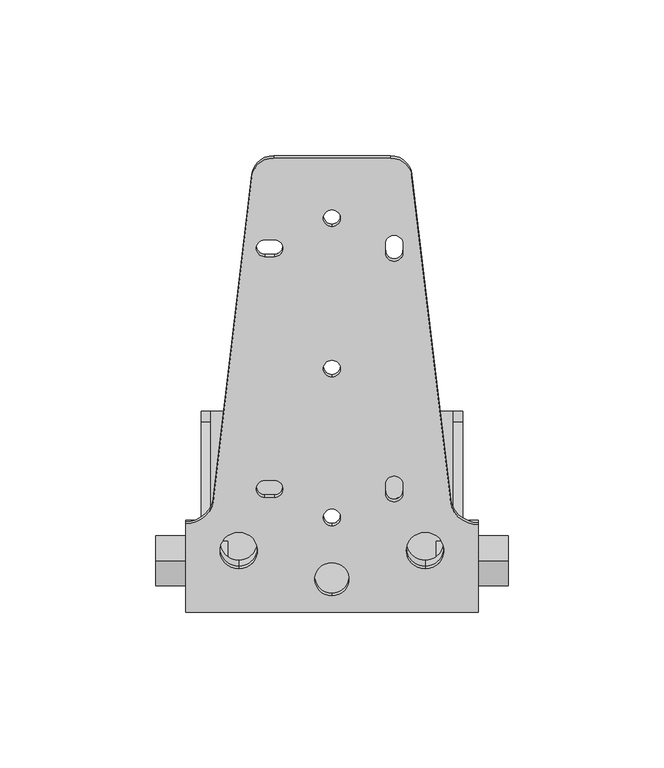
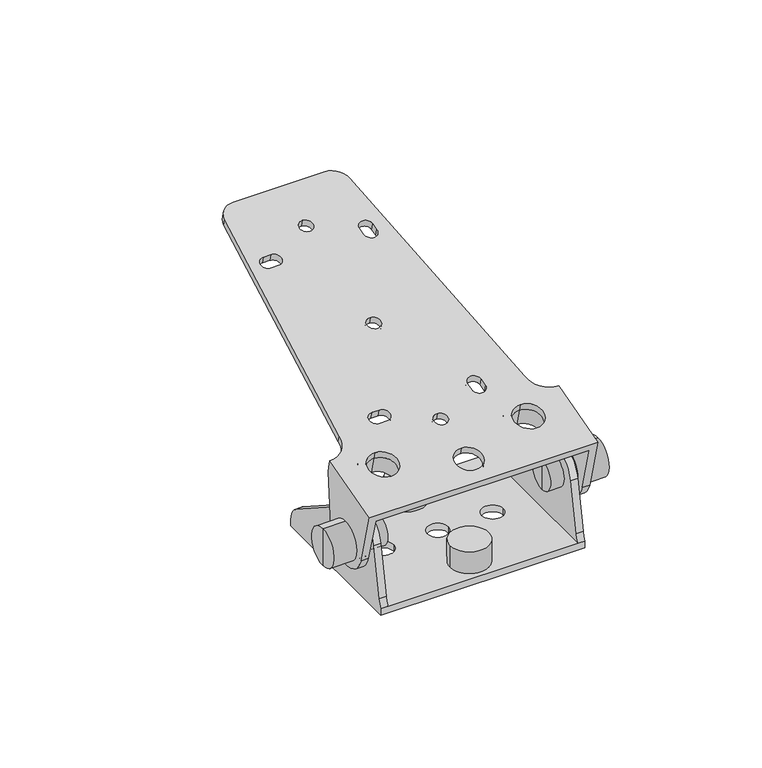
"""IFC4 building model written with IfcOpenShell, lengths in millimetres: proxy geometry, d&b xS-Series 42S l 44S Mounting Bracket : 42S l 44S Mounting Bracket."""

from ifc_helpers import new_model, si_unit, point, frame, frame_2d, origin, origin_with_axes, place, context, project, spatial, polyline, circle_curve, trimmed, segment, composite_curve, outline, extrude, source, transform, mapped, element, save
from ifc_brep_helpers import plane_surface, cylinder_surface, revolved_surface, advanced_brep


def communication_devices_34a5a653(model_context):
    return source(origin(), model_context, "Body", "SolidModel", [
        advanced_brep(
        [(25.7132706, 108.0212224, 78.9485133), (37.9949251, 4.9029218, 51.3180479), (47.0, -3.7953126, 48.987363), (44.0, -3.7953126, 48.987363), (44.0, -31.8448689, 41.471507), (-44.0, -31.8448689, 41.471507), (-44.0, -3.7953126, 48.987363), (-47.0, -3.7953126, 48.987363), (-47.0, -3.4922093, 49.0685793), (-37.9541317, 5.2454286, 51.4098223), (-25.7132706, 108.0212224, 78.9485133), (-18.7591389, 114.0099308, 80.5531828), (18.7591389, 114.0099308, 80.5531828), (29.9380242, -6.2305028, 48.3348558), (29.9380242, -17.8216127, 45.2290272), (-29.9380242, -6.2305028, 48.3348558), (-29.9380242, -17.8216127, 45.2290272), (0.0, 97.3477103, 76.0885543), (0.0, 92.0351183, 74.6650496), (0.0, 1.2380906, 50.3360593), (0.0, -4.0745014, 48.9125546), (0.0, -15.9070928, 45.7420213), (0.0, -26.5322769, 42.8950118), (22.75, 6.3092012, 51.6948593), (22.75, 9.2069787, 52.4713164), (17.25, 9.2069787, 52.4713164), (17.25, 6.3092012, 51.6948593), (-21.5, 5.1017939, 51.3713355), (-18.5, 5.1017939, 51.3713355), (-18.5, 10.414386, 52.7948403), (-21.5, 10.414386, 52.7948403), (17.25, 86.4810448, 73.1768401), (17.25, 83.5832673, 72.4003829), (22.75, 83.5832673, 72.4003829), (22.75, 86.4810448, 73.1768401), (-18.5, 87.6884521, 73.5003639), (-21.5, 87.6884521, 73.5003639), (-21.5, 82.37586, 72.0768591), (-18.5, 82.37586, 72.0768591), (0.0, 49.051419, 63.1476021), (0.0, 43.738827, 61.7240973), (25.7132706, 107.2447653, 81.8462907), (18.7591389, 113.2334737, 83.4509603), (-18.7591389, 113.2334737, 83.4509603), (-25.7132706, 107.2447653, 81.8462907), (-37.9541317, 4.4689714, 54.3075998), (-47.0, -4.2686664, 51.9663568), (-47.0, -32.6213261, 44.3692845), (47.0, -32.6213261, 44.3692845), (47.0, -4.5717697, 51.8851405), (37.9949251, 4.1264647, 54.2158254), (29.9380242, -7.0069599, 51.2326332), (29.9380242, -18.5980698, 48.1268047), (-29.9380242, -7.0069599, 51.2326332), (-29.9380242, -18.5980698, 48.1268047), (0.0, 96.5712532, 78.9863318), (0.0, 91.2586611, 77.562827), (0.0, 0.4616335, 53.2338368), (0.0, -4.8509586, 51.8103321), (0.0, -16.6835499, 48.6397988), (0.0, -27.308734, 45.7927893), (22.75, 5.5327441, 54.5926368), (17.25, 5.5327441, 54.5926368), (17.25, 8.4305215, 55.3690939), (22.75, 8.4305215, 55.3690939), (-21.5, 4.3253368, 54.269113), (-21.5, 9.6379288, 55.6926177), (-18.5, 9.6379288, 55.6926177), (-18.5, 4.3253368, 54.269113), (17.25, 85.7045876, 76.0746175), (22.75, 85.7045876, 76.0746175), (22.75, 82.8068102, 75.2981604), (17.25, 82.8068102, 75.2981604), (-18.5, 86.9119949, 76.3981413), (-18.5, 81.5994029, 74.9746366), (-21.5, 81.5994029, 74.9746366), (-21.5, 86.9119949, 76.3981413), (0.0, 48.2749619, 66.0453795), (0.0, 42.9623698, 64.6218748), (47.0, -26.668488, 22.1529905), (47.0, -5.0851623, 24.0412868), (47.0, -3.1223831, 46.4759559), (-47.0, -26.668488, 22.1529905), (-44.0, -26.668488, 22.1529905), (44.0, -26.668488, 22.1529905), (-47.0, -3.1223831, 46.4759559), (-47.0, -5.0851623, 24.0412868), (-44.0, -5.0851623, 24.0412868), (-44.0, -3.1223831, 46.4759559), (44.0, -3.1223831, 46.4759559), (44.0, -5.0851623, 24.0412868)],
        [
            (0, 1),
            (1, 2, circle_curve(frame((47.0, 4.9029218, 51.3180479), z_axis=(0.0, -0.2588190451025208, 0.9659258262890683), x_axis=(0.0, -0.9659258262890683, -0.2588190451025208)), 9.0050749)),
            (2, 3),
            (3, 4),
            (4, 5),
            (5, 6),
            (6, 7),
            (7, 8),
            (8, 9, circle_curve(frame((-47.0, 5.2454286, 51.4098223), z_axis=(0.0, -0.2588190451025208, 0.9659258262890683), x_axis=(0.0, -0.9659258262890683, -0.2588190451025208)), 9.0458683)),
            (9, 10),
            (10, 11, circle_curve(frame((-18.7591389, 107.24845, 78.7414495), z_axis=(0.0, 0.2588190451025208, -0.9659258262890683), x_axis=(0.0, -0.9659258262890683, -0.2588190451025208)), 7.0)),
            (11, 12),
            (12, 0, circle_curve(frame((18.7591389, 107.24845, 78.7414495), z_axis=(0.0, 0.2588190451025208, -0.9659258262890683), x_axis=(0.0, -0.9659258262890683, -0.2588190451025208)), 7.0)),
            (13, 14, circle_curve(frame((29.9380242, -12.0260577, 46.7819415), z_axis=(0.0, -0.2588190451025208, 0.9659258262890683), x_axis=(0.0, -0.9659258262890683, -0.2588190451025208)), 6.0)),
            (14, 13, circle_curve(frame((29.9380242, -12.0260577, 46.7819415), z_axis=(0.0, -0.2588190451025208, 0.9659258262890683), x_axis=(0.0, -0.9659258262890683, -0.2588190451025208)), 6.0)),
            (15, 16, circle_curve(frame((-29.9380242, -12.0260577, 46.7819415), z_axis=(0.0, -0.2588190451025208, 0.9659258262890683), x_axis=(0.0, -0.9659258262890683, -0.2588190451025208)), 6.0)),
            (16, 15, circle_curve(frame((-29.9380242, -12.0260577, 46.7819415), z_axis=(0.0, -0.2588190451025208, 0.9659258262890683), x_axis=(0.0, -0.9659258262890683, -0.2588190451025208)), 6.0)),
            (17, 18, circle_curve(frame((0.0, 94.6914143, 75.3768019), z_axis=(0.0, -0.2588190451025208, 0.9659258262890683), x_axis=(0.0, -0.9659258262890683, -0.2588190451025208)), 2.75)),
            (18, 17, circle_curve(frame((0.0, 94.6914143, 75.3768019), z_axis=(0.0, -0.2588190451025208, 0.9659258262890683), x_axis=(0.0, -0.9659258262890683, -0.2588190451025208)), 2.75)),
            (19, 20, circle_curve(frame((0.0, -1.4182054, 49.624307), z_axis=(0.0, -0.2588190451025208, 0.9659258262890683), x_axis=(0.0, -0.9659258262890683, -0.2588190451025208)), 2.75)),
            (20, 19, circle_curve(frame((0.0, -1.4182054, 49.624307), z_axis=(0.0, -0.2588190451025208, 0.9659258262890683), x_axis=(0.0, -0.9659258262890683, -0.2588190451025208)), 2.75)),
            (21, 22, circle_curve(frame((0.0, -21.2196849, 44.3185165), z_axis=(0.0, -0.2588190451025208, 0.9659258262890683), x_axis=(0.0, -0.9659258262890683, -0.2588190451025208)), 5.5)),
            (22, 21, circle_curve(frame((0.0, -21.2196849, 44.3185165), z_axis=(0.0, -0.2588190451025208, 0.9659258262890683), x_axis=(0.0, -0.9659258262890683, -0.2588190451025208)), 5.5)),
            (23, 24),
            (24, 25, circle_curve(frame((20.0, 9.2069787, 52.4713164), z_axis=(0.0, -0.2588190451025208, 0.9659258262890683), x_axis=(0.0, -0.9659258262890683, -0.2588190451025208)), 2.75)),
            (25, 26),
            (26, 23, circle_curve(frame((20.0, 6.3092012, 51.6948593), z_axis=(0.0, -0.2588190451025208, 0.9659258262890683), x_axis=(0.0, -0.9659258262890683, -0.2588190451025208)), 2.75)),
            (27, 28),
            (28, 29, circle_curve(frame((-18.5, 7.7580899, 52.0830879), z_axis=(0.0, -0.2588190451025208, 0.9659258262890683), x_axis=(0.0, -0.9659258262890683, -0.2588190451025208)), 2.75)),
            (29, 30),
            (30, 27, circle_curve(frame((-21.5, 7.7580899, 52.0830879), z_axis=(0.0, -0.2588190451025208, 0.9659258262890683), x_axis=(0.0, -0.9659258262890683, -0.2588190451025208)), 2.75)),
            (31, 32),
            (32, 33, circle_curve(frame((20.0, 83.5832673, 72.4003829), z_axis=(0.0, -0.2588190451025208, 0.9659258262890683), x_axis=(0.0, -0.9659258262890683, -0.2588190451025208)), 2.75)),
            (33, 34),
            (34, 31, circle_curve(frame((20.0, 86.4810448, 73.1768401), z_axis=(0.0, -0.2588190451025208, 0.9659258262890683), x_axis=(0.0, -0.9659258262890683, -0.2588190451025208)), 2.75)),
            (35, 36),
            (36, 37, circle_curve(frame((-21.5, 85.032156, 72.7886115), z_axis=(0.0, -0.2588190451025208, 0.9659258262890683), x_axis=(0.0, -0.9659258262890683, -0.2588190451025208)), 2.75)),
            (37, 38),
            (38, 35, circle_curve(frame((-18.5, 85.032156, 72.7886115), z_axis=(0.0, -0.2588190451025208, 0.9659258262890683), x_axis=(0.0, -0.9659258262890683, -0.2588190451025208)), 2.75)),
            (39, 40, circle_curve(frame((0.0, 46.395123, 62.4358497), z_axis=(0.0, -0.2588190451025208, 0.9659258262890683), x_axis=(0.0, -0.9659258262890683, -0.2588190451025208)), 2.75)),
            (40, 39, circle_curve(frame((0.0, 46.395123, 62.4358497), z_axis=(0.0, -0.2588190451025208, 0.9659258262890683), x_axis=(0.0, -0.9659258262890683, -0.2588190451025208)), 2.75)),
            (41, 42, circle_curve(frame((18.7591389, 106.4719929, 81.639227), z_axis=(0.0, -0.2588190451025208, 0.9659258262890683), x_axis=(0.0, -0.9659258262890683, -0.2588190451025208)), 7.0)),
            (42, 43),
            (43, 44, circle_curve(frame((-18.7591389, 106.4719929, 81.639227), z_axis=(0.0, -0.2588190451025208, 0.9659258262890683), x_axis=(0.0, -0.9659258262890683, -0.2588190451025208)), 7.0)),
            (44, 45),
            (45, 46, circle_curve(frame((-47.0, 4.4689714, 54.3075998), z_axis=(0.0, 0.2588190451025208, -0.9659258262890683), x_axis=(0.0, -0.9659258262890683, -0.2588190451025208)), 9.0458683)),
            (46, 47),
            (47, 48),
            (48, 49),
            (49, 50, circle_curve(frame((47.0, 4.1264647, 54.2158254), z_axis=(0.0, 0.2588190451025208, -0.9659258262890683), x_axis=(0.0, -0.9659258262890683, -0.2588190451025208)), 9.0050749)),
            (50, 41),
            (51, 52, circle_curve(frame((29.9380242, -12.8025149, 49.679719), z_axis=(0.0, 0.2588190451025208, -0.9659258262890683), x_axis=(0.0, -0.9659258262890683, -0.2588190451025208)), 6.0)),
            (52, 51, circle_curve(frame((29.9380242, -12.8025149, 49.679719), z_axis=(0.0, 0.2588190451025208, -0.9659258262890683), x_axis=(0.0, -0.9659258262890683, -0.2588190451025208)), 6.0)),
            (53, 54, circle_curve(frame((-29.9380242, -12.8025149, 49.679719), z_axis=(0.0, 0.2588190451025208, -0.9659258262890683), x_axis=(0.0, -0.9659258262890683, -0.2588190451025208)), 6.0)),
            (54, 53, circle_curve(frame((-29.9380242, -12.8025149, 49.679719), z_axis=(0.0, 0.2588190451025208, -0.9659258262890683), x_axis=(0.0, -0.9659258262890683, -0.2588190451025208)), 6.0)),
            (55, 56, circle_curve(frame((0.0, 93.9149572, 78.2745794), z_axis=(0.0, 0.2588190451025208, -0.9659258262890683), x_axis=(0.0, -0.9659258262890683, -0.2588190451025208)), 2.75)),
            (56, 55, circle_curve(frame((0.0, 93.9149572, 78.2745794), z_axis=(0.0, 0.2588190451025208, -0.9659258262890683), x_axis=(0.0, -0.9659258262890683, -0.2588190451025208)), 2.75)),
            (57, 58, circle_curve(frame((0.0, -2.1946626, 52.5220844), z_axis=(0.0, 0.2588190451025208, -0.9659258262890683), x_axis=(0.0, -0.9659258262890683, -0.2588190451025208)), 2.75)),
            (58, 57, circle_curve(frame((0.0, -2.1946626, 52.5220844), z_axis=(0.0, 0.2588190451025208, -0.9659258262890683), x_axis=(0.0, -0.9659258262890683, -0.2588190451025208)), 2.75)),
            (59, 60, circle_curve(frame((0.0, -21.996142, 47.216294), z_axis=(0.0, 0.2588190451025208, -0.9659258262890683), x_axis=(0.0, -0.9659258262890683, -0.2588190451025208)), 5.5)),
            (60, 59, circle_curve(frame((0.0, -21.996142, 47.216294), z_axis=(0.0, 0.2588190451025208, -0.9659258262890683), x_axis=(0.0, -0.9659258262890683, -0.2588190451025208)), 5.5)),
            (61, 62, circle_curve(frame((20.0, 5.5327441, 54.5926368), z_axis=(0.0, 0.2588190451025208, -0.9659258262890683), x_axis=(0.0, -0.9659258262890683, -0.2588190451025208)), 2.75)),
            (62, 63),
            (63, 64, circle_curve(frame((20.0, 8.4305215, 55.3690939), z_axis=(0.0, 0.2588190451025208, -0.9659258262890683), x_axis=(0.0, -0.9659258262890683, -0.2588190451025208)), 2.75)),
            (64, 61),
            (65, 66, circle_curve(frame((-21.5, 6.9816328, 54.9808654), z_axis=(0.0, 0.2588190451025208, -0.9659258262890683), x_axis=(0.0, -0.9659258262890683, -0.2588190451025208)), 2.75)),
            (66, 67),
            (67, 68, circle_curve(frame((-18.5, 6.9816328, 54.9808654), z_axis=(0.0, 0.2588190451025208, -0.9659258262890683), x_axis=(0.0, -0.9659258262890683, -0.2588190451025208)), 2.75)),
            (68, 65),
            (69, 70, circle_curve(frame((20.0, 85.7045876, 76.0746175), z_axis=(0.0, 0.2588190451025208, -0.9659258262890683), x_axis=(0.0, -0.9659258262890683, -0.2588190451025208)), 2.75)),
            (70, 71),
            (71, 72, circle_curve(frame((20.0, 82.8068102, 75.2981604), z_axis=(0.0, 0.2588190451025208, -0.9659258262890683), x_axis=(0.0, -0.9659258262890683, -0.2588190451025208)), 2.75)),
            (72, 69),
            (73, 74, circle_curve(frame((-18.5, 84.2556989, 75.686389), z_axis=(0.0, 0.2588190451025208, -0.9659258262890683), x_axis=(0.0, -0.9659258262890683, -0.2588190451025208)), 2.75)),
            (74, 75),
            (75, 76, circle_curve(frame((-21.5, 84.2556989, 75.686389), z_axis=(0.0, 0.2588190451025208, -0.9659258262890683), x_axis=(0.0, -0.9659258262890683, -0.2588190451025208)), 2.75)),
            (76, 73),
            (77, 78, circle_curve(frame((0.0, 45.6186658, 65.3336272), z_axis=(0.0, 0.2588190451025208, -0.9659258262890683), x_axis=(0.0, -0.9659258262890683, -0.2588190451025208)), 2.75)),
            (78, 77, circle_curve(frame((0.0, 45.6186658, 65.3336272), z_axis=(0.0, 0.2588190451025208, -0.9659258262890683), x_axis=(0.0, -0.9659258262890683, -0.2588190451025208)), 2.75)),
            (0, 41),
            (50, 1),
            (49, 2),
            (48, 79),
            (79, 80, circle_curve(frame((47.0, -16.043304, 25.0), z_axis=(1.0, 0.0, 0.0), x_axis=(0.0, -0.9659258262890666, -0.25881904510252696)), 11.0)),
            (80, 81),
            (81, 2),
            (47, 82),
            (82, 83),
            (83, 5),
            (4, 84),
            (84, 79),
            (46, 8),
            (7, 85),
            (85, 86),
            (86, 82, circle_curve(frame((-47.0, -16.043304, 25.0), z_axis=(-1.0, 0.0, 0.0), x_axis=(0.0, -0.9659258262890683, -0.2588190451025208)), 11.0)),
            (45, 9),
            (44, 10),
            (43, 11),
            (42, 12),
            (13, 51),
            (52, 14),
            (15, 53),
            (54, 16),
            (17, 55),
            (56, 18),
            (19, 57),
            (58, 20),
            (21, 59),
            (60, 22),
            (23, 61),
            (64, 24),
            (63, 25),
            (62, 26),
            (27, 65),
            (68, 28),
            (67, 29),
            (66, 30),
            (31, 69),
            (72, 32),
            (71, 33),
            (70, 34),
            (35, 73),
            (76, 36),
            (75, 37),
            (74, 38),
            (83, 87, circle_curve(frame((-44.0, -16.043304, 25.0), z_axis=(1.0, 0.0, 0.0), x_axis=(0.0, -0.9659258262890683, -0.2588190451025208)), 11.0)),
            (87, 88),
            (88, 6),
            (85, 88),
            (87, 86),
            (3, 89),
            (89, 90),
            (90, 84, circle_curve(frame((44.0, -16.043304, 25.0), z_axis=(-1.0, 0.0, 0.0), x_axis=(0.0, -0.9659258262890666, -0.25881904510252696)), 11.0)),
            (80, 90),
            (89, 81),
            (39, 77),
            (78, 40),
        ],
        [
            plane_surface(frame((37.9541317, 5.2454286, 51.4098223), z_axis=(0.0, 0.25881904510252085, -0.9659258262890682), x_axis=(0.11429040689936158, -0.9595964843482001, -0.25712310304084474))),
            plane_surface(frame((37.9541317, 4.4689714, 54.3075998), z_axis=(0.0, -0.25881904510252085, 0.9659258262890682), x_axis=(-0.11429040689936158, 0.9595964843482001, 0.25712310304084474))),
            plane_surface(frame((25.7132706, 108.0212224, 78.9485133), z_axis=(0.9934473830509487, 0.11039605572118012, 0.02958053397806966), x_axis=(0.0, -0.2588190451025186, 0.965925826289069))),
            revolved_surface(polyline([(47.0, -4.571769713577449, 51.88514051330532), (47.0, -3.795312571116, 48.98736300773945)]), (47.0, 4.1264647, 54.2158254), (0.0, -0.2588190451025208, 0.9659258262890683)),
            plane_surface(frame((47.0, -3.7953126, 48.987363), z_axis=(1.0, 0.0, 0.0), x_axis=(0.0, -0.2588190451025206, 0.9659258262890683))),
            plane_surface(frame((47.0, -31.8448689, 41.471507), z_axis=(0.0, -0.9659258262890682, -0.25881904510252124), x_axis=(0.0, -0.25881904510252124, 0.9659258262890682))),
            plane_surface(frame((-47.0, -31.8448689, 41.471507), z_axis=(-1.0, 0.0, 0.0), x_axis=(0.0, -0.25881904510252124, 0.9659258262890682))),
            revolved_surface(polyline([(-47.0, -4.2686664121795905, 51.966356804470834), (-47.0, -3.4922092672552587, 49.068579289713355)]), (-47.0, 4.4689714, 54.3075998), (0.0, -0.2588190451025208, 0.9659258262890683)),
            plane_surface(frame((-37.9541317, 5.2454286, 51.4098223), z_axis=(-0.9934473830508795, 0.11039605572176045, 0.02958053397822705), x_axis=(0.0, -0.25881904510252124, 0.9659258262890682))),
            cylinder_surface(frame((-18.7591389, 106.4719929, 81.639227), z_axis=(0.0, 0.2588190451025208, -0.9659258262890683), x_axis=(0.0, -0.9659258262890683, -0.2588190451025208)), 7.0),
            plane_surface(frame((-18.7591389, 114.0099308, 80.5531828), z_axis=(0.0, 0.965925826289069, 0.2588190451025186), x_axis=(0.0, -0.2588190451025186, 0.965925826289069))),
            cylinder_surface(frame((18.7591389, 106.4719929, 81.639227), z_axis=(0.0, 0.2588190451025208, -0.9659258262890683), x_axis=(0.0, -0.9659258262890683, -0.2588190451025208)), 7.0),
            revolved_surface(polyline([(29.9380242, -18.598069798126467, 48.12680474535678), (29.9380242, -17.82161264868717, 45.229027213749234)]), (29.9380242, -6.8496768, 27.463425), (0.0, -0.2588190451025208, 0.9659258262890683)),
            revolved_surface(polyline([(-29.9380242, -18.598069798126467, 48.12680474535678), (-29.9380242, -17.82161264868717, 45.229027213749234)]), (-29.9380242, -6.8496768, 27.463425), (0.0, -0.2588190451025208, 0.9659258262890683)),
            revolved_surface(polyline([(0.0, 91.25866113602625, 77.56282704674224), (0.0, 92.03511828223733, 74.66504952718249)]), (0.0, 99.8677952, 56.0582854), (0.0, -0.2588190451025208, 0.9659258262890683)),
            revolved_surface(polyline([(0.0, -4.850958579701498, 51.81033210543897), (0.0, -4.074501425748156, 48.912554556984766)]), (0.0, 3.7581755, 30.3057904), (0.0, -0.2588190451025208, 0.9659258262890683)),
            revolved_surface(polyline([(0.0, -27.30873408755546, 45.79278927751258), (0.0, -26.5322769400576, 42.895011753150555)]), (0.0, -16.043304, 25.0), (0.0, -0.2588190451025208, 0.9659258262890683)),
            plane_surface(frame((22.75, 6.3092012, 51.6948593), z_axis=(-1.0, 0.0, 0.0), x_axis=(0.0, -0.25881904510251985, 0.9659258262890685))),
            revolved_surface(polyline([(20.0, 5.774225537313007, 54.65734154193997), (20.0, 6.5506826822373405, 51.75956402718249)]), (20.0, 14.3833596, 33.1527999), (0.0, -0.2588190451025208, 0.9659258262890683)),
            plane_surface(frame((17.25, 9.2069787, 52.4713164), z_axis=(1.0, 0.0, 0.0), x_axis=(0.0, -0.25881904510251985, 0.9659258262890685))),
            revolved_surface(polyline([(20.0, 2.876448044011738, 53.88088441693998), (20.0, 3.652905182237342, 50.98310692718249)]), (20.0, 11.4855821, 32.3763428), (0.0, -0.2588190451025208, 0.9659258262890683)),
            plane_surface(frame((-21.5, 5.1017939, 51.3713355), z_axis=(0.0, 0.9659258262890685, 0.25881904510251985), x_axis=(0.0, -0.25881904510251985, 0.9659258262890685))),
            revolved_surface(polyline([(-18.5, 4.325336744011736, 54.26911301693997), (-18.5, 5.101793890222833, 51.371335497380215)]), (-18.5, 12.9344708, 32.7645714), (0.0, -0.2588190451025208, 0.9659258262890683)),
            plane_surface(frame((-18.5, 10.414386, 52.7948403), z_axis=(0.0, -0.9659258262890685, -0.25881904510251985), x_axis=(0.0, -0.25881904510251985, 0.9659258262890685))),
            revolved_surface(polyline([(-21.5, 4.325336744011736, 54.26911301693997), (-21.5, 5.101793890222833, 51.371335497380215)]), (-21.5, 12.9344708, 32.7645714), (0.0, -0.2588190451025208, 0.9659258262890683)),
            plane_surface(frame((17.25, 86.4810448, 73.1768401), z_axis=(1.0, 0.0, 0.0), x_axis=(0.0, -0.25881904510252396, 0.9659258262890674))),
            revolved_surface(polyline([(20.0, 80.15051414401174, 74.58640801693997), (20.0, 80.92697128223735, 71.68863052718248)]), (20.0, 88.7596482, 53.0818664), (0.0, -0.2588190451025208, 0.9659258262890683)),
            plane_surface(frame((22.75, 83.5832673, 72.4003829), z_axis=(-1.0, 0.0, 0.0), x_axis=(0.0, -0.2588190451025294, 0.965925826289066))),
            revolved_surface(polyline([(20.0, 83.04829163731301, 75.36286514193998), (20.0, 83.82474875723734, 72.46508772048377)]), (20.0, 91.6574257, 53.8583235), (0.0, -0.2588190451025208, 0.9659258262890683)),
            plane_surface(frame((-18.5, 87.6884521, 73.5003639), z_axis=(0.0, -0.965925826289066, -0.2588190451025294), x_axis=(0.0, -0.2588190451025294, 0.965925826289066))),
            revolved_surface(polyline([(-21.5, 81.59940284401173, 74.97463661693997), (-21.5, 82.37585999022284, 72.07685909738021)]), (-21.5, 90.2085369, 53.470095), (0.0, -0.2588190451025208, 0.9659258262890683)),
            plane_surface(frame((-21.5, 82.37586, 72.0768591), z_axis=(0.0, 0.965925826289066, 0.2588190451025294), x_axis=(0.0, -0.2588190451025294, 0.965925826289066))),
            revolved_surface(polyline([(-18.5, 81.59940284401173, 74.97463661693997), (-18.5, 82.37585999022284, 72.07685909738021)]), (-18.5, 90.2085369, 53.470095), (0.0, -0.2588190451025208, 0.9659258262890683)),
            plane_surface(frame((-44.0, -31.8448689, 41.471507), z_axis=(1.0, 0.0, 0.0), x_axis=(0.0, -0.9659258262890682, -0.258819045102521))),
            plane_surface(frame((-47.0, -3.1223831, 46.4759559), z_axis=(0.0, 0.9961946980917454, -0.08715574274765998), x_axis=(1.0, 0.0, 0.0))),
            cylinder_surface(frame((-44.0, -16.043304, 25.0), z_axis=(-1.0, 0.0, 0.0), x_axis=(0.0, -0.9659258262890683, -0.2588190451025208)), 11.0),
            plane_surface(frame((-47.0, -3.7953126, 48.987363), z_axis=(0.0, 0.9659258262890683, 0.2588190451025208), x_axis=(1.0, 0.0, 0.0))),
            plane_surface(frame((44.0, -26.668488, 22.1529905), z_axis=(-1.0, 0.0, 0.0), x_axis=(0.0, -0.2588190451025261, 0.9659258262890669))),
            plane_surface(frame((47.0, -5.0851623, 24.0412868), z_axis=(0.0, 0.9961946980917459, -0.08715574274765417), x_axis=(-1.0, 0.0, 0.0))),
            cylinder_surface(frame((44.0, -16.043304, 25.0), z_axis=(1.0, 0.0, 0.0), x_axis=(0.0, -0.9659258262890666, -0.25881904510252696)), 11.0),
            plane_surface(frame((47.0, -3.1223831, 46.4759559), z_axis=(0.0, 0.9659258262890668, 0.2588190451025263), x_axis=(-1.0, 0.0, 0.0))),
            revolved_surface(polyline([(0.0, 42.96236983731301, 64.62187484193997), (0.0, 43.73882699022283, 61.72409729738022)]), (0.0, 51.5715039, 43.1173332), (0.0, -0.2588190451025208, 0.9659258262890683)),
        ],
        [
            (0, [[1, 2, 3, 4, 5, 6, 7, 8, 9, 10, 11, 12, 13], [14, 15], [16, 17], [18, 19], [20, 21], [22, 23], [24, 25, 26, 27], [28, 29, 30, 31], [32, 33, 34, 35], [36, 37, 38, 39], [40, 41]]),
            (1, [[42, 43, 44, 45, 46, 47, 48, 49, 50, 51], [52, 53], [54, 55], [56, 57], [58, 59], [60, 61], [62, 63, 64, 65], [66, 67, 68, 69], [70, 71, 72, 73], [74, 75, 76, 77], [78, 79]]),
            (2, [[-1, 80, -51, 81]]),
            (3, [[-2, -81, -50, 82]]),
            (4, [[-49, 83, 84, 85, 86, -82]]),
            (5, [[-83, -48, 87, 88, 89, -5, 90, 91]]),
            (6, [[-47, 92, -8, 93, 94, 95, -87]]),
            (7, [[-9, -92, -46, 96]]),
            (8, [[-10, -96, -45, 97]]),
            (9, [[-11, -97, -44, 98]]),
            (10, [[-12, -98, -43, 99]]),
            (11, [[-13, -99, -42, -80]]),
            (12, [[-14, 100, -53, 101]]),
            (12, [[-15, -101, -52, -100]]),
            (13, [[-16, 102, -55, 103]]),
            (13, [[-17, -103, -54, -102]]),
            (14, [[-18, 104, -57, 105]]),
            (14, [[-19, -105, -56, -104]]),
            (15, [[-20, 106, -59, 107]]),
            (15, [[-21, -107, -58, -106]]),
            (16, [[-22, 108, -61, 109]]),
            (16, [[-23, -109, -60, -108]]),
            (17, [[-24, 110, -65, 111]]),
            (18, [[-25, -111, -64, 112]]),
            (19, [[-26, -112, -63, 113]]),
            (20, [[-27, -113, -62, -110]]),
            (21, [[-28, 114, -69, 115]]),
            (22, [[-29, -115, -68, 116]]),
            (23, [[-30, -116, -67, 117]]),
            (24, [[-31, -117, -66, -114]]),
            (25, [[-32, 118, -73, 119]]),
            (26, [[-33, -119, -72, 120]]),
            (27, [[-34, -120, -71, 121]]),
            (28, [[-35, -121, -70, -118]]),
            (29, [[-36, 122, -77, 123]]),
            (30, [[-37, -123, -76, 124]]),
            (31, [[-38, -124, -75, 125]]),
            (32, [[-39, -125, -74, -122]]),
            (33, [[-89, 126, 127, 128, -6]]),
            (34, [[-94, 129, -127, 130]]),
            (35, [[-95, -130, -126, -88]]),
            (36, [[-93, -7, -128, -129]]),
            (37, [[131, 132, 133, -90, -4]]),
            (38, [[-85, 134, -132, 135]]),
            (39, [[-84, -91, -133, -134]]),
            (40, [[-86, -135, -131, -3]]),
            (41, [[-40, 136, -79, 137]]),
            (41, [[-41, -137, -78, -136]]),
        ],
    ),
        extrude(outline(composite_curve([segment(trimmed(circle_curve(frame_2d((0.0, 6.0)), 9.0), [point((0.0, 15.0))], [point((0.0, -2.9999999))], False, "CARTESIAN"), True, "CONTINUOUS"), segment(trimmed(circle_curve(frame_2d((0.0, 6.0)), 9.0), [point((0.0, -2.9999999))], [point((0.0, 15.0))], False, "CARTESIAN"), True, "CONTINUOUS")], self_intersect=False), holes=[composite_curve([segment(trimmed(circle_curve(frame_2d((0.0, 6.0)), 6.0), [point((0.0, 12.0000001))], [point((0.0, 0.0))], True, "CARTESIAN"), True, "CONTINUOUS"), segment(trimmed(circle_curve(frame_2d((0.0, 6.0)), 6.0), [point((0.0, 0.0))], [point((0.0, 12.0000001))], True, "CARTESIAN"), True, "CONTINUOUS")], self_intersect=False)]), frame((29.9380242, -15.854588, 37.8879909), z_axis=(0.0, -0.2588190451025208, 0.9659258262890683), x_axis=(1.0, 0.0, 0.0)), (0.0, 0.0, 1.0), 7.6),
        extrude(outline(composite_curve([segment(trimmed(circle_curve(frame_2d((-59.8760484, 6.0)), 9.0), [point((-59.8760484, 15.0))], [point((-59.8760484, -2.9999999))], False, "CARTESIAN"), True, "CONTINUOUS"), segment(trimmed(circle_curve(frame_2d((-59.8760484, 6.0)), 9.0), [point((-59.8760484, -2.9999999))], [point((-59.8760484, 15.0))], False, "CARTESIAN"), True, "CONTINUOUS")], self_intersect=False), holes=[composite_curve([segment(trimmed(circle_curve(frame_2d((-59.8760484, 6.0)), 6.0), [point((-59.8760484, 12.0000001))], [point((-59.8760484, 0.0))], True, "CARTESIAN"), True, "CONTINUOUS"), segment(trimmed(circle_curve(frame_2d((-59.8760484, 6.0)), 6.0), [point((-59.8760484, 0.0))], [point((-59.8760484, 12.0000001))], True, "CARTESIAN"), True, "CONTINUOUS")], self_intersect=False)]), frame((29.9380242, -15.854588, 37.8879909), z_axis=(0.0, -0.2588190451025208, 0.9659258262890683), x_axis=(1.0, 0.0, 0.0)), (0.0, 0.0, 1.0), 7.6),
        advanced_brep(
        [(-56.6, -16.043304, 25.0), (-56.6, -16.043304, 33.0047051), (-56.6, -16.043304, 16.9952949), (-47.0, -16.043304, 16.9952949), (-47.0, -16.043304, 33.0047051), (-47.0, -16.043304, 25.0)],
        [
            (0, 1),
            (1, 2, circle_curve(frame((-56.6, -16.043304, 25.0), z_axis=(-1.0, 0.0, 0.0), x_axis=(0.0, 0.0, 1.0)), 8.0047051)),
            (2, 0),
            (2, 1, circle_curve(frame((-56.6, -16.043304, 25.0), z_axis=(-1.0, 0.0, 0.0), x_axis=(0.0, 0.0, 1.0)), 8.0047051)),
            (3, 4, circle_curve(frame((-47.0, -16.043304, 25.0), z_axis=(1.0, 0.0, 0.0), x_axis=(0.0, 0.0, 1.0)), 8.0047051)),
            (4, 5),
            (5, 3),
            (4, 3, circle_curve(frame((-47.0, -16.043304, 25.0), z_axis=(1.0, 0.0, 0.0), x_axis=(0.0, 0.0, 1.0)), 8.0047051)),
            (1, 4),
            (3, 2),
        ],
        [
            plane_surface(frame((-56.6, -16.043304, 25.0), z_axis=(-1.0, 0.0, 0.0), x_axis=(0.0, 0.0, 1.0))),
            plane_surface(frame((-47.0, -16.043304, 25.0), z_axis=(1.0, 0.0, 0.0), x_axis=(0.0, 0.0, 1.0))),
            cylinder_surface(frame((-71.6, -16.043304, 25.0), z_axis=(-1.0, 0.0, 0.0), x_axis=(0.0, 0.0, 1.0)), 8.0047051),
        ],
        [
            (0, [[1, 2, 3]]),
            (0, [[-3, 4, -1]]),
            (1, [[5, 6, 7]]),
            (1, [[8, -7, -6]]),
            (2, [[-2, 9, -5, 10]]),
            (2, [[-4, -10, -8, -9]]),
        ],
    ),
        advanced_brep(
        [(-44.0, -16.043304, 16.9952949), (-44.0, -16.043304, 33.0047051), (-42.0, -16.043304, 33.0047051), (-42.0, -16.043304, 16.9952949), (-44.0, -16.043304, 25.0), (-42.0, -16.043304, 25.0)],
        [
            (0, 1, circle_curve(frame((-44.0, -16.043304, 25.0), z_axis=(1.0, 0.0, 0.0), x_axis=(0.0, 0.0, 1.0)), 8.0047051)),
            (1, 2),
            (2, 3, circle_curve(frame((-42.0, -16.043304, 25.0), z_axis=(-1.0, 0.0, 0.0), x_axis=(0.0, 0.0, 1.0)), 8.0047051)),
            (3, 0),
            (1, 0, circle_curve(frame((-44.0, -16.043304, 25.0), z_axis=(1.0, 0.0, 0.0), x_axis=(0.0, 0.0, 1.0)), 8.0047051)),
            (3, 2, circle_curve(frame((-42.0, -16.043304, 25.0), z_axis=(-1.0, 0.0, 0.0), x_axis=(0.0, 0.0, 1.0)), 8.0047051)),
            (4, 1),
            (0, 4),
            (2, 5),
            (5, 3),
        ],
        [
            cylinder_surface(frame((-71.6, -16.043304, 25.0), z_axis=(-1.0, 0.0, 0.0), x_axis=(0.0, 0.0, 1.0)), 8.0047051),
            plane_surface(frame((-44.0, -16.043304, 25.0), z_axis=(-1.0, 0.0, 0.0), x_axis=(0.0, 0.0, 1.0))),
            plane_surface(frame((-42.0, -16.043304, 25.0), z_axis=(1.0, 0.0, 0.0), x_axis=(0.0, 0.0, 1.0))),
        ],
        [
            (0, [[1, 2, 3, 4]]),
            (0, [[5, -4, 6, -2]]),
            (1, [[7, -1, 8]]),
            (1, [[-8, -5, -7]]),
            (2, [[-3, 9, 10]]),
            (2, [[-6, -10, -9]]),
        ],
    ),
        advanced_brep(
        [(-39.0, -16.043304, 18.6786387), (-39.0, -16.043304, 31.3213613), (-33.5, -16.043304, 31.3213613), (-33.5, -16.043304, 18.6786387), (-39.0, -16.043304, 25.0), (-33.5, -16.043304, 25.0)],
        [
            (0, 1, circle_curve(frame((-39.0, -16.043304, 25.0), z_axis=(1.0, 0.0, 0.0), x_axis=(0.0, 0.0, 1.0)), 6.3213613)),
            (1, 2),
            (2, 3, circle_curve(frame((-33.5, -16.043304, 25.0), z_axis=(-1.0, 0.0, 0.0), x_axis=(0.0, 0.0, 1.0)), 6.3213613)),
            (3, 0),
            (1, 0, circle_curve(frame((-39.0, -16.043304, 25.0), z_axis=(1.0, 0.0, 0.0), x_axis=(0.0, 0.0, 1.0)), 6.3213613)),
            (3, 2, circle_curve(frame((-33.5, -16.043304, 25.0), z_axis=(-1.0, 0.0, 0.0), x_axis=(0.0, 0.0, 1.0)), 6.3213613)),
            (4, 1),
            (0, 4),
            (2, 5),
            (5, 3),
        ],
        [
            cylinder_surface(frame((-71.6, -16.043304, 25.0), z_axis=(-1.0, 0.0, 0.0), x_axis=(0.0, 0.0, 1.0)), 6.3213613),
            plane_surface(frame((-39.0, -16.043304, 25.0), z_axis=(-1.0, 0.0, 0.0), x_axis=(0.0, 0.0, 1.0))),
            plane_surface(frame((-33.5, -16.043304, 25.0), z_axis=(1.0, 0.0, 0.0), x_axis=(0.0, 0.0, 1.0))),
        ],
        [
            (0, [[1, 2, 3, 4]]),
            (0, [[5, -4, 6, -2]]),
            (1, [[7, -1, 8]]),
            (1, [[-8, -5, -7]]),
            (2, [[-3, 9, 10]]),
            (2, [[-6, -10, -9]]),
        ],
    ),
        advanced_brep(
        [(47.0, -16.043304, 16.9952949), (47.0, -16.043304, 33.0047051), (56.6, -16.043304, 33.0047051), (56.6, -16.043304, 16.9952949), (47.0, -16.043304, 25.0), (56.6, -16.043304, 25.0)],
        [
            (0, 1, circle_curve(frame((47.0, -16.043304, 25.0), z_axis=(1.0, 0.0, 0.0), x_axis=(0.0, 0.0, 1.0)), 8.0047051)),
            (1, 2),
            (2, 3, circle_curve(frame((56.6, -16.043304, 25.0), z_axis=(-1.0, 0.0, 0.0), x_axis=(0.0, 0.0, 1.0)), 8.0047051)),
            (3, 0),
            (1, 0, circle_curve(frame((47.0, -16.043304, 25.0), z_axis=(1.0, 0.0, 0.0), x_axis=(0.0, 0.0, 1.0)), 8.0047051)),
            (3, 2, circle_curve(frame((56.6, -16.043304, 25.0), z_axis=(-1.0, 0.0, 0.0), x_axis=(0.0, 0.0, 1.0)), 8.0047051)),
            (4, 1),
            (0, 4),
            (2, 5),
            (5, 3),
        ],
        [
            cylinder_surface(frame((-71.6, -16.043304, 25.0), z_axis=(-1.0, 0.0, 0.0), x_axis=(0.0, 0.0, 1.0)), 8.0047051),
            plane_surface(frame((47.0, -16.043304, 25.0), z_axis=(-1.0, 0.0, 0.0), x_axis=(0.0, 0.0, 1.0))),
            plane_surface(frame((56.6, -16.043304, 25.0), z_axis=(1.0, 0.0, 0.0), x_axis=(0.0, 0.0, 1.0))),
        ],
        [
            (0, [[1, 2, 3, 4]]),
            (0, [[5, -4, 6, -2]]),
            (1, [[7, -1, 8]]),
            (1, [[-8, -5, -7]]),
            (2, [[-3, 9, 10]]),
            (2, [[-6, -10, -9]]),
        ],
    ),
        advanced_brep(
        [(42.0, -16.043304, 25.0), (42.0, -16.043304, 33.0047051), (42.0, -16.043304, 16.9952949), (44.0, -16.043304, 16.9952949), (44.0, -16.043304, 33.0047051), (44.0, -16.043304, 25.0)],
        [
            (0, 1),
            (1, 2, circle_curve(frame((42.0, -16.043304, 25.0), z_axis=(-1.0, 0.0, 0.0), x_axis=(0.0, 0.0, 1.0)), 8.0047051)),
            (2, 0),
            (2, 1, circle_curve(frame((42.0, -16.043304, 25.0), z_axis=(-1.0, 0.0, 0.0), x_axis=(0.0, 0.0, 1.0)), 8.0047051)),
            (3, 4, circle_curve(frame((44.0, -16.043304, 25.0), z_axis=(1.0, 0.0, 0.0), x_axis=(0.0, 0.0, 1.0)), 8.0047051)),
            (4, 5),
            (5, 3),
            (4, 3, circle_curve(frame((44.0, -16.043304, 25.0), z_axis=(1.0, 0.0, 0.0), x_axis=(0.0, 0.0, 1.0)), 8.0047051)),
            (1, 4),
            (3, 2),
        ],
        [
            plane_surface(frame((42.0, -16.043304, 25.0), z_axis=(-1.0, 0.0, 0.0), x_axis=(0.0, 0.0, 1.0))),
            plane_surface(frame((44.0, -16.043304, 25.0), z_axis=(1.0, 0.0, 0.0), x_axis=(0.0, 0.0, 1.0))),
            cylinder_surface(frame((-71.6, -16.043304, 25.0), z_axis=(-1.0, 0.0, 0.0), x_axis=(0.0, 0.0, 1.0)), 8.0047051),
        ],
        [
            (0, [[1, 2, 3]]),
            (0, [[-3, 4, -1]]),
            (1, [[5, 6, 7]]),
            (1, [[8, -7, -6]]),
            (2, [[-2, 9, -5, 10]]),
            (2, [[-4, -10, -8, -9]]),
        ],
    ),
        advanced_brep(
        [(33.5, -16.043304, 25.0), (33.5, -16.043304, 31.3213613), (33.5, -16.043304, 18.6786387), (39.0, -16.043304, 18.6786387), (39.0, -16.043304, 31.3213613), (39.0, -16.043304, 25.0)],
        [
            (0, 1),
            (1, 2, circle_curve(frame((33.5, -16.043304, 25.0), z_axis=(-1.0, 0.0, 0.0), x_axis=(0.0, 0.0, 1.0)), 6.3213613)),
            (2, 0),
            (2, 1, circle_curve(frame((33.5, -16.043304, 25.0), z_axis=(-1.0, 0.0, 0.0), x_axis=(0.0, 0.0, 1.0)), 6.3213613)),
            (3, 4, circle_curve(frame((39.0, -16.043304, 25.0), z_axis=(1.0, 0.0, 0.0), x_axis=(0.0, 0.0, 1.0)), 6.3213613)),
            (4, 5),
            (5, 3),
            (4, 3, circle_curve(frame((39.0, -16.043304, 25.0), z_axis=(1.0, 0.0, 0.0), x_axis=(0.0, 0.0, 1.0)), 6.3213613)),
            (1, 4),
            (3, 2),
        ],
        [
            plane_surface(frame((33.5, -16.043304, 25.0), z_axis=(-1.0, 0.0, 0.0), x_axis=(0.0, 0.0, 1.0))),
            plane_surface(frame((39.0, -16.043304, 25.0), z_axis=(1.0, 0.0, 0.0), x_axis=(0.0, 0.0, 1.0))),
            cylinder_surface(frame((-71.6, -16.043304, 25.0), z_axis=(-1.0, 0.0, 0.0), x_axis=(0.0, 0.0, 1.0)), 6.3213613),
        ],
        [
            (0, [[1, 2, 3]]),
            (0, [[-3, 4, -1]]),
            (1, [[5, 6, 7]]),
            (1, [[8, -7, -6]]),
            (2, [[-2, 9, -5, 10]]),
            (2, [[-4, -10, -8, -9]]),
        ],
    ),
        advanced_brep(
        [(39.0, -32.043304, 2.8), (39.0, 31.956696, 2.8), (-39.0, 31.956696, 2.8), (-39.0, -32.043304, 2.8), (-8.0, 22.4524055, 2.8), (8.0, 22.4524055, 2.8), (-4.3493147, 0.0, 2.8), (4.3493147, 0.0, 2.8), (-26.8553603, 0.0, 2.8), (-18.1567308, 0.0, 2.8), (26.8553603, 0.0, 2.8), (18.1567308, 0.0, 2.8), (42.0, 31.956696, 0.0), (42.0, -32.043304, 0.0), (-42.0, -32.043304, 0.0), (-42.0, 31.956696, 0.0), (-8.0, 22.4524055, 0.0), (8.0, 22.4524055, 0.0), (-4.3493147, 0.0, 0.0), (4.3493147, 0.0, 0.0), (-26.8553603, 0.0, 0.0), (-18.1567308, 0.0, 0.0), (26.8553603, 0.0, 0.0), (18.1567308, 0.0, 0.0), (-42.0, 31.956696, 2.8), (42.0, 31.956696, 2.8), (-42.0, -32.043304, 2.8), (-42.0, -30.7163008, 6.2872119), (-42.0, -26.8574722, 27.0133962), (-42.0, -10.0763582, 34.2409717), (-42.0, 28.4324065, 9.3756529), (42.0, -32.043304, 2.8), (42.0, 28.4324065, 9.3756529), (42.0, -10.0763582, 34.2409717), (42.0, -26.8574722, 27.0133962), (42.0, -30.7163008, 6.2872119), (39.0, 28.4324065, 9.3756529), (39.0, -30.7163008, 6.2872119), (39.0, -26.8574722, 27.0133962), (39.0, -10.0763582, 34.2409717), (-39.0, 28.4324065, 9.3756529), (-39.0, -10.0763582, 34.2409717), (-39.0, -26.8574722, 27.0133962), (-39.0, -30.7163008, 6.2872119)],
        [
            (0, 1),
            (1, 2),
            (2, 3),
            (3, 0),
            (4, 5, circle_curve(frame((0.0, 22.4524055, 2.8), z_axis=(0.0, 0.0, -1.0), x_axis=(1.0, 0.0, 0.0)), 8.0)),
            (5, 4, circle_curve(frame((0.0, 22.4524055, 2.8), z_axis=(0.0, 0.0, -1.0), x_axis=(1.0, 0.0, 0.0)), 8.0)),
            (6, 7, circle_curve(frame((0.0, 0.0, 2.8), z_axis=(0.0, 0.0, -1.0), x_axis=(1.0, 0.0, 0.0)), 4.3493147)),
            (7, 6, circle_curve(frame((0.0, 0.0, 2.8), z_axis=(0.0, 0.0, -1.0), x_axis=(1.0, 0.0, 0.0)), 4.3493147)),
            (8, 9, circle_curve(frame((-22.5060456, 0.0, 2.8), z_axis=(0.0, 0.0, -1.0), x_axis=(1.0, 0.0, 0.0)), 4.3493147)),
            (9, 8, circle_curve(frame((-22.5060456, 0.0, 2.8), z_axis=(0.0, 0.0, -1.0), x_axis=(1.0, 0.0, 0.0)), 4.3493147)),
            (10, 11, circle_curve(frame((22.5060456, 0.0, 2.8), z_axis=(0.0, 0.0, -1.0), x_axis=(-1.0, 0.0, 0.0)), 4.3493147)),
            (11, 10, circle_curve(frame((22.5060456, 0.0, 2.8), z_axis=(0.0, 0.0, -1.0), x_axis=(-1.0, 0.0, 0.0)), 4.3493147)),
            (12, 13),
            (13, 14),
            (14, 15),
            (15, 12),
            (16, 17, circle_curve(frame((0.0, 22.4524055, 0.0), z_axis=(0.0, 0.0, 1.0), x_axis=(1.0, 0.0, 0.0)), 8.0)),
            (17, 16, circle_curve(frame((0.0, 22.4524055, 0.0), z_axis=(0.0, 0.0, 1.0), x_axis=(1.0, 0.0, 0.0)), 8.0)),
            (18, 19, circle_curve(origin_with_axes(), 4.3493147)),
            (19, 18, circle_curve(origin_with_axes(), 4.3493147)),
            (20, 21, circle_curve(frame((-22.5060456, 0.0, 0.0), z_axis=(0.0, 0.0, 1.0), x_axis=(1.0, 0.0, 0.0)), 4.3493147)),
            (21, 20, circle_curve(frame((-22.5060456, 0.0, 0.0), z_axis=(0.0, 0.0, 1.0), x_axis=(1.0, 0.0, 0.0)), 4.3493147)),
            (22, 23, circle_curve(frame((22.5060456, 0.0, 0.0), z_axis=(0.0, 0.0, 1.0), x_axis=(-1.0, 0.0, 0.0)), 4.3493147)),
            (23, 22, circle_curve(frame((22.5060456, 0.0, 0.0), z_axis=(0.0, 0.0, 1.0), x_axis=(-1.0, 0.0, 0.0)), 4.3493147)),
            (15, 24),
            (24, 2),
            (1, 25),
            (25, 12),
            (14, 26),
            (26, 27, circle_curve(frame((-42.0, -40.9867523, 8.1993782), z_axis=(1.0, 0.0, 0.0), x_axis=(0.0, -1.0, 0.0)), 10.4469399)),
            (27, 28),
            (28, 29, circle_curve(frame((-42.0, -16.043304, 25.0), z_axis=(-1.0, 0.0, 0.0), x_axis=(0.0, -1.0, 0.0)), 11.0)),
            (29, 30),
            (30, 24, circle_curve(frame((-42.0, 24.2533538, 2.9035799), z_axis=(-1.0, 0.0, 0.0), x_axis=(0.0, -1.0, 0.0)), 7.7040386)),
            (13, 31),
            (31, 0),
            (3, 26),
            (25, 32, circle_curve(frame((42.0, 24.2533538, 2.9035799), z_axis=(1.0, 0.0, 0.0), x_axis=(0.0, -1.0, 0.0)), 7.7040386)),
            (32, 33),
            (33, 34, circle_curve(frame((42.0, -16.043304, 25.0), z_axis=(1.0, 0.0, 0.0), x_axis=(0.0, -1.0, 0.0)), 11.0)),
            (34, 35),
            (35, 31, circle_curve(frame((42.0, -40.9867523, 8.1993782), z_axis=(-1.0, 0.0, 0.0), x_axis=(0.0, -1.0, 0.0)), 10.4469399)),
            (36, 1, circle_curve(frame((39.0, 24.2533538, 2.9035799), z_axis=(-1.0, 0.0, 0.0), x_axis=(0.0, -1.0, 0.0)), 7.7040386)),
            (0, 37, circle_curve(frame((39.0, -40.9867523, 8.1993782), z_axis=(1.0, 0.0, 0.0), x_axis=(0.0, -1.0, 0.0)), 10.4469399)),
            (37, 38),
            (38, 39, circle_curve(frame((39.0, -16.043304, 25.0), z_axis=(-1.0, 0.0, 0.0), x_axis=(0.0, -1.0, 0.0)), 11.0)),
            (39, 36),
            (39, 33),
            (32, 36),
            (38, 34),
            (37, 35),
            (40, 41),
            (41, 42, circle_curve(frame((-39.0, -16.043304, 25.0), z_axis=(1.0, 0.0, 0.0), x_axis=(0.0, -1.0, 0.0)), 11.0)),
            (42, 43),
            (43, 3, circle_curve(frame((-39.0, -40.9867523, 8.1993782), z_axis=(-1.0, 0.0, 0.0), x_axis=(0.0, -1.0, 0.0)), 10.4469399)),
            (2, 40, circle_curve(frame((-39.0, 24.2533538, 2.9035799), z_axis=(1.0, 0.0, 0.0), x_axis=(0.0, -1.0, 0.0)), 7.7040386)),
            (40, 30),
            (29, 41),
            (28, 42),
            (27, 43),
            (4, 16),
            (17, 5),
            (6, 18),
            (19, 7),
            (8, 20),
            (21, 9),
            (10, 22),
            (23, 11),
        ],
        [
            plane_surface(frame((-28.38814, 31.956696, 2.8), z_axis=(0.0, 0.0, 1.0), x_axis=(-1.0, 0.0, 0.0))),
            plane_surface(frame((-28.38814, 31.956696, 0.0), z_axis=(0.0, 0.0, -1.0), x_axis=(1.0, 0.0, 0.0))),
            plane_surface(frame((42.0, 31.956696, 2.8), z_axis=(0.0, 1.0, 0.0), x_axis=(0.0, 0.0, -1.0))),
            plane_surface(frame((-42.0, 31.956696, 2.8), z_axis=(-1.0, 0.0, 0.0), x_axis=(0.0, 0.0, -1.0))),
            plane_surface(frame((-42.0, -32.043304, 2.8), z_axis=(0.0, -1.0, 0.0), x_axis=(0.0, 0.0, -1.0))),
            plane_surface(frame((42.0, -32.043304, 2.8), z_axis=(1.0, 0.0, 0.0), x_axis=(0.0, 0.0, -1.0))),
            plane_surface(frame((39.0, -10.0763582, 34.2409717), z_axis=(-1.0, 0.0, 0.0), x_axis=(0.0, 0.8400883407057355, -0.5424496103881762))),
            plane_surface(frame((42.0, 28.4324065, 9.3756529), z_axis=(0.0, 0.5424496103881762, 0.8400883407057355), x_axis=(-1.0, 0.0, 0.0))),
            cylinder_surface(frame((39.0, -16.043304, 25.0), z_axis=(1.0, 0.0, 0.0), x_axis=(0.0, -1.0, 0.0)), 11.0),
            plane_surface(frame((42.0, -26.8574722, 27.0133962), z_axis=(0.0, -0.9831062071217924, 0.1830360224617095), x_axis=(-1.0, 0.0, 0.0))),
            revolved_surface(polyline([(39.0, -51.433692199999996, 8.1993782), (42.0, -51.433692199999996, 8.1993782)]), (39.0, -40.9867523, 8.1993782), (-1.0, 0.0, 0.0)),
            cylinder_surface(frame((39.0, 24.2533538, 2.9035799), z_axis=(1.0, 0.0, 0.0), x_axis=(0.0, -1.0, 0.0)), 7.7040386),
            plane_surface(frame((-39.0, -10.0763582, 34.2409717), z_axis=(1.0, 0.0, 0.0), x_axis=(0.0, -0.8400883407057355, 0.5424496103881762))),
            plane_surface(frame((-39.0, 28.4324065, 9.3756529), z_axis=(0.0, 0.5424496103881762, 0.8400883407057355), x_axis=(-1.0, 0.0, 0.0))),
            cylinder_surface(frame((-42.0, -16.043304, 25.0), z_axis=(1.0, 0.0, 0.0), x_axis=(0.0, -1.0, 0.0)), 11.0),
            plane_surface(frame((-39.0, -26.8574722, 27.0133962), z_axis=(0.0, -0.9831062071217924, 0.1830360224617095), x_axis=(-1.0, 0.0, 0.0))),
            revolved_surface(polyline([(-42.0, -51.433692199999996, 8.1993782), (-39.0, -51.433692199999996, 8.1993782)]), (-42.0, -40.9867523, 8.1993782), (-1.0, 0.0, 0.0)),
            cylinder_surface(frame((-42.0, 24.2533538, 2.9035799), z_axis=(1.0, 0.0, 0.0), x_axis=(0.0, -1.0, 0.0)), 7.7040386),
            revolved_surface(polyline([(8.0, 22.4524055, 0.0), (8.0, 22.4524055, 2.799999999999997)]), (0.0, 22.4524055, 50.0), (0.0, 0.0, -1.0)),
            revolved_surface(polyline([(4.3493147, 0.0, 0.0), (4.3493147, 0.0, 2.799999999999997)]), (0.0, 0.0, 50.0), (0.0, 0.0, -1.0)),
            revolved_surface(polyline([(-18.1567309, 0.0, 0.0), (-18.1567309, 0.0, 2.799999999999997)]), (-22.5060456, 0.0, 50.0), (0.0, 0.0, -1.0)),
            revolved_surface(polyline([(18.1567309, 0.0, 0.0), (18.1567309, 0.0, 2.799999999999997)]), (22.5060456, 0.0, 50.0), (0.0, 0.0, -1.0)),
        ],
        [
            (0, [[1, 2, 3, 4], [5, 6], [7, 8], [9, 10], [11, 12]]),
            (1, [[13, 14, 15, 16], [17, 18], [19, 20], [21, 22], [23, 24]]),
            (2, [[-16, 25, 26, -2, 27, 28]]),
            (3, [[-15, 29, 30, 31, 32, 33, 34, -25]]),
            (4, [[-14, 35, 36, -4, 37, -29]]),
            (5, [[-13, -28, 38, 39, 40, 41, 42, -35]]),
            (6, [[43, -1, 44, 45, 46, 47]]),
            (7, [[-47, 48, -39, 49]]),
            (8, [[-46, 50, -40, -48]]),
            (9, [[-45, 51, -41, -50]]),
            (10, [[-44, -36, -42, -51]]),
            (11, [[-43, -49, -38, -27]]),
            (12, [[52, 53, 54, 55, -3, 56]]),
            (13, [[-52, 57, -33, 58]]),
            (14, [[-53, -58, -32, 59]]),
            (15, [[-54, -59, -31, 60]]),
            (16, [[-55, -60, -30, -37]]),
            (17, [[-56, -26, -34, -57]]),
            (18, [[-5, 61, -18, 62]]),
            (18, [[-6, -62, -17, -61]]),
            (19, [[-7, 63, -20, 64]]),
            (19, [[-8, -64, -19, -63]]),
            (20, [[-9, 65, -22, 66]]),
            (20, [[-10, -66, -21, -65]]),
            (21, [[-11, 67, -24, 68]]),
            (21, [[-12, -68, -23, -67]]),
        ],
    ),
        extrude(outline(composite_curve([segment(trimmed(circle_curve(frame_2d((0.0, 22.4524055)), 8.0), [point((8.0, 22.4524055))], [point((-8.0, 22.4524055))], False, "CARTESIAN"), True, "CONTINUOUS"), segment(trimmed(circle_curve(frame_2d((0.0, 22.4524055)), 8.0), [point((-8.0, 22.4524055))], [point((8.0, 22.4524055))], False, "CARTESIAN"), True, "CONTINUOUS")], self_intersect=False)), frame((0.0, 0.0, 2.8), z_axis=(0.0, 0.0, 1.0), x_axis=(1.0, 0.0, 0.0)), (0.0, 0.0, 1.0), 9.8),
        extrude(outline(composite_curve([segment(trimmed(circle_curve(frame_2d((0.0, -22.4524055)), 8.0), [point((8.0, -22.4524055))], [point((-8.0, -22.4524055))], False, "CARTESIAN"), True, "CONTINUOUS"), segment(trimmed(circle_curve(frame_2d((0.0, -22.4524055)), 8.0), [point((-8.0, -22.4524055))], [point((8.0, -22.4524055))], False, "CARTESIAN"), True, "CONTINUOUS")], self_intersect=False)), frame((0.0, 0.0, 2.8), z_axis=(0.0, 0.0, 1.0), x_axis=(1.0, 0.0, 0.0)), (0.0, 0.0, 1.0), 9.8),
    ])


if __name__ == "__main__":
    model = new_model("IFC4")
    model_context = context("Model", 3, world=origin())
    ifc_project = project(units=[si_unit("LENGTHUNIT", "METRE", prefix="MILLI")], contexts=[model_context])
    site = spatial("IfcSite", under=ifc_project)
    building = spatial("IfcBuilding", under=site)
    placement = place(None, origin())
    communication_devices_shape = communication_devices_34a5a653(model_context)
    element("IfcBuildingElementProxy", 1, Name="d&b xS-Series 42S l 44S Mounting Bracket : 42S l 44S Mounting Bracket", ObjectType="d&b xS-Series 42S l 44S Mounting Bracket : 42S l 44S Mounting Bracket", at=placement, inside=building, context=model_context, shape_type="MappedRepresentation", body=[
        mapped(communication_devices_shape, transform((0.0, 0.0, 0.0), x_axis=(1.0, 0.0, 0.0), y_axis=(0.0, 1.0, 0.0), z_axis=(0.0, 0.0, 1.0))),
    ])
    save(model, "model.ifc")
